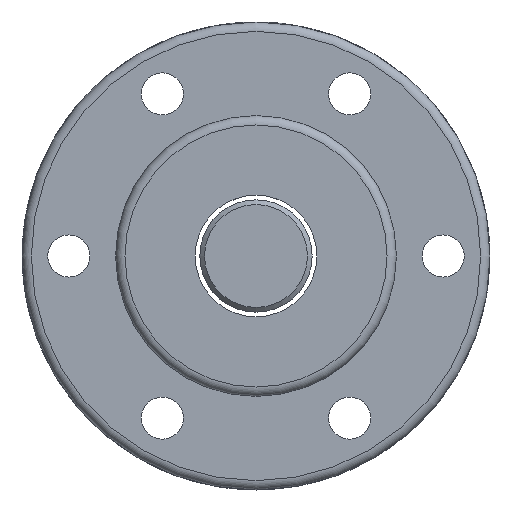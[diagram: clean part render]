
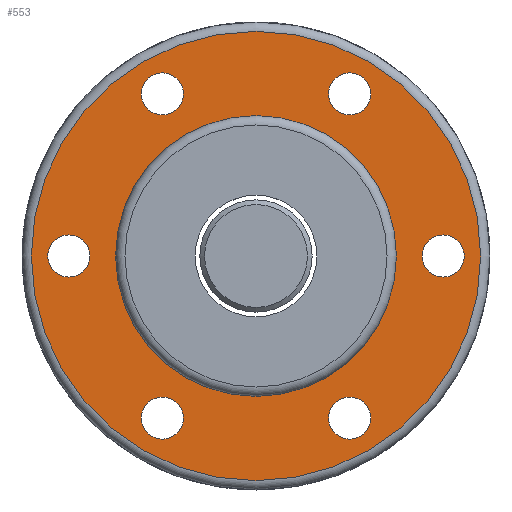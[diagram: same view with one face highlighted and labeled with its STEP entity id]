
A CAD part, left-side view. The second image highlights one B-rep face of the part: STEP entity #553.
In plain terms, the highlighted planar face has unit normal (-1, 0, 0).
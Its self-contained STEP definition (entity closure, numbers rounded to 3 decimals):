
#94=PLANE('',#661);
#170=ORIENTED_EDGE('',*,*,#247,.F.);
#171=ORIENTED_EDGE('',*,*,#249,.T.);
#172=ORIENTED_EDGE('',*,*,#246,.F.);
#173=ORIENTED_EDGE('',*,*,#243,.F.);
#174=ORIENTED_EDGE('',*,*,#240,.F.);
#175=ORIENTED_EDGE('',*,*,#237,.F.);
#176=ORIENTED_EDGE('',*,*,#234,.F.);
#177=ORIENTED_EDGE('',*,*,#231,.F.);
#231=EDGE_CURVE('',#283,#283,#328,.T.);
#234=EDGE_CURVE('',#286,#286,#331,.T.);
#237=EDGE_CURVE('',#289,#289,#334,.T.);
#240=EDGE_CURVE('',#292,#292,#337,.T.);
#243=EDGE_CURVE('',#295,#295,#340,.T.);
#246=EDGE_CURVE('',#298,#298,#343,.T.);
#247=EDGE_CURVE('',#299,#299,#344,.T.);
#249=EDGE_CURVE('',#301,#301,#346,.T.);
#283=VERTEX_POINT('',#927);
#286=VERTEX_POINT('',#936);
#289=VERTEX_POINT('',#945);
#292=VERTEX_POINT('',#954);
#295=VERTEX_POINT('',#963);
#298=VERTEX_POINT('',#972);
#299=VERTEX_POINT('',#975);
#301=VERTEX_POINT('',#981);
#328=CIRCLE('',#624,2.25);
#331=CIRCLE('',#630,2.25);
#334=CIRCLE('',#636,2.25);
#337=CIRCLE('',#642,2.25);
#340=CIRCLE('',#648,2.25);
#343=CIRCLE('',#654,2.25);
#344=CIRCLE('',#656,24.);
#346=CIRCLE('',#660,15.);
#414=EDGE_LOOP('',(#170));
#415=EDGE_LOOP('',(#171));
#416=EDGE_LOOP('',(#172));
#417=EDGE_LOOP('',(#173));
#418=EDGE_LOOP('',(#174));
#419=EDGE_LOOP('',(#175));
#420=EDGE_LOOP('',(#176));
#421=EDGE_LOOP('',(#177));
#499=FACE_BOUND('',#414,.T.);
#500=FACE_BOUND('',#415,.T.);
#501=FACE_BOUND('',#416,.T.);
#502=FACE_BOUND('',#417,.T.);
#503=FACE_BOUND('',#418,.T.);
#504=FACE_BOUND('',#419,.T.);
#505=FACE_BOUND('',#420,.T.);
#506=FACE_BOUND('',#421,.T.);
#553=ADVANCED_FACE('',(#499,#500,#501,#502,#503,#504,#505,#506),#94,.T.);
#624=AXIS2_PLACEMENT_3D('',#926,#746,#747);
#630=AXIS2_PLACEMENT_3D('',#935,#758,#759);
#636=AXIS2_PLACEMENT_3D('',#944,#770,#771);
#642=AXIS2_PLACEMENT_3D('',#953,#782,#783);
#648=AXIS2_PLACEMENT_3D('',#962,#794,#795);
#654=AXIS2_PLACEMENT_3D('',#971,#806,#807);
#656=AXIS2_PLACEMENT_3D('',#974,#810,#811);
#660=AXIS2_PLACEMENT_3D('',#980,#818,#819);
#661=AXIS2_PLACEMENT_3D('',#982,#820,#821);
#746=DIRECTION('',(-1.,0.,0.));
#747=DIRECTION('',(0.,-1.,0.));
#758=DIRECTION('',(-1.,0.,0.));
#759=DIRECTION('',(0.,-1.,0.));
#770=DIRECTION('',(-1.,0.,0.));
#771=DIRECTION('',(0.,-1.,0.));
#782=DIRECTION('',(-1.,0.,0.));
#783=DIRECTION('',(0.,-1.,0.));
#794=DIRECTION('',(-1.,0.,0.));
#795=DIRECTION('',(0.,-1.,0.));
#806=DIRECTION('',(-1.,0.,0.));
#807=DIRECTION('',(0.,-1.,0.));
#810=DIRECTION('',(1.,0.,0.));
#811=DIRECTION('',(0.,1.,0.));
#818=DIRECTION('',(1.,0.,0.));
#819=DIRECTION('',(0.,1.,0.));
#820=DIRECTION('',(-1.,0.,0.));
#821=DIRECTION('',(0.,-1.,0.));
#926=CARTESIAN_POINT('',(-24.,20.,0.));
#927=CARTESIAN_POINT('',(-24.,17.75,0.));
#935=CARTESIAN_POINT('',(-24.,-20.,0.));
#936=CARTESIAN_POINT('',(-24.,-22.25,0.));
#944=CARTESIAN_POINT('',(-24.,10.,-17.32));
#945=CARTESIAN_POINT('',(-24.,7.75,-17.32));
#953=CARTESIAN_POINT('',(-24.,-10.,-17.32));
#954=CARTESIAN_POINT('',(-24.,-12.25,-17.32));
#962=CARTESIAN_POINT('',(-24.,-10.,17.32));
#963=CARTESIAN_POINT('',(-24.,-12.25,17.32));
#971=CARTESIAN_POINT('',(-24.,10.,17.32));
#972=CARTESIAN_POINT('',(-24.,7.75,17.32));
#974=CARTESIAN_POINT('',(-24.,0.,0.));
#975=CARTESIAN_POINT('',(-24.,24.,0.));
#980=CARTESIAN_POINT('',(-24.,0.,0.));
#981=CARTESIAN_POINT('',(-24.,15.,0.));
#982=CARTESIAN_POINT('',(-24.,19.5,0.));
